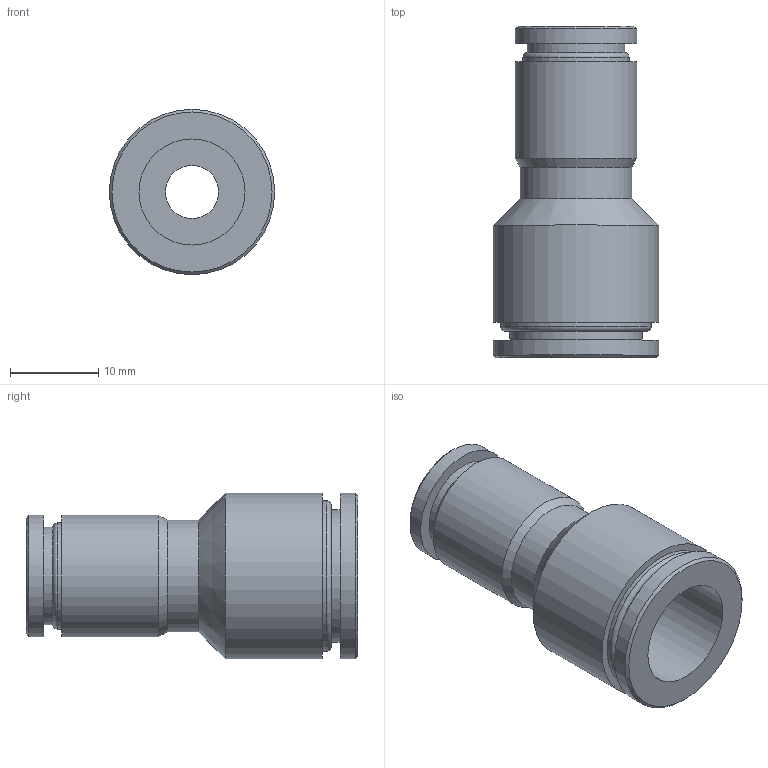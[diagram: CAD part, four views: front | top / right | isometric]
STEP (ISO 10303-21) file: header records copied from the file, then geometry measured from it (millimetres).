
FILE_DESCRIPTION(/* description */ (''),/* implementation_level */ '2;1');
FILE_NAME(/* name */ 'LXH10 1208 00.stp',/* time_stamp */ '2026-04-29T14:16:14+02:00',/* author */ ('freju'),/* organization */ (''),/* preprocessor_version */ 'ST-DEVELOPER v20.1',/* originating_system */ 'Autodesk Inventor 2026',/* authorisation */ '');
FILE_SCHEMA (('AUTOMOTIVE_DESIGN { 1 0 10303 214 3 1 1 }'));
Length unit declared in the file: millimetre
Products named in the file (1): LXH10 1208 00
Bounding box: 18.7 x 37.5 x 18.7 mm (x, y, z)
Volume: 4195.9 mm3; surface area: 3692.3 mm2
Topology: 1 solids, 1 shells, 27 faces, 50 edges, 32 vertices
Faces by surface type: cylinder 12, plane 9, cone 4, torus 2
Full cylindrical faces by diameter (mm): 6 x1, 8 x1, 11 x1, 12 x2, 12.6 x1, 13.7 x2, 15 x1, 17 x1, 18.7 x2
Entity records: 733 total; most frequent: DIRECTION 140, CARTESIAN_POINT 110, ORIENTED_EDGE 100, AXIS2_PLACEMENT_3D 62, EDGE_CURVE 50, EDGE_LOOP 36, CIRCLE 34, VERTEX_POINT 32
